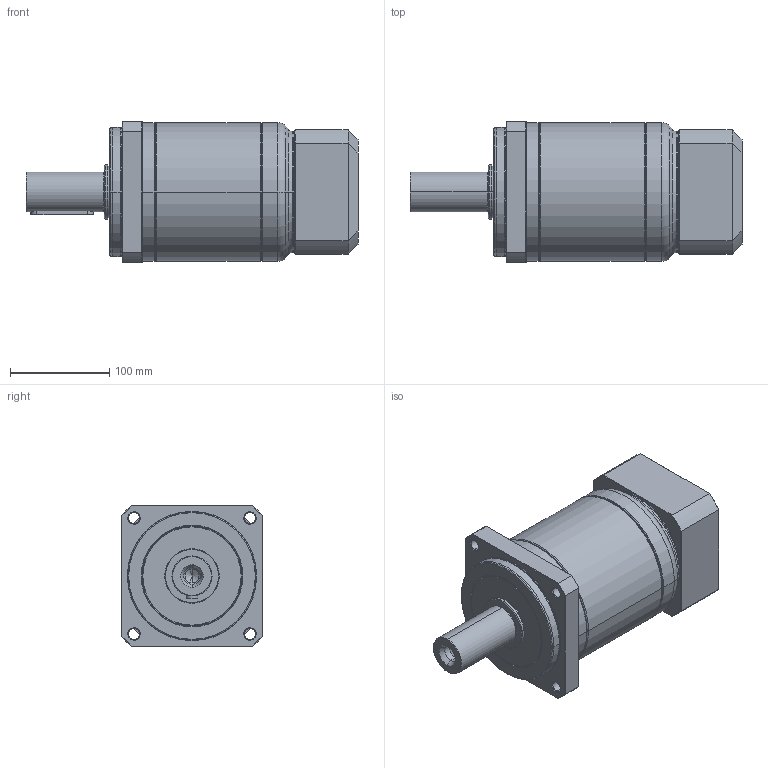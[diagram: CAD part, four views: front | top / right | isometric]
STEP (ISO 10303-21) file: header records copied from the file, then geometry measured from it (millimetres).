
FILE_DESCRIPTION((''),'2;1');
FILE_NAME('PA2-142_2ST_32-P0411700101_ASM','2016-05-11T',('d01943'),(''),'PRO/ENGINEER BY PARAMETRIC TECHNOLOGY CORPORATION, 2008410','PRO/ENGINEER BY PARAMETRIC TECHNOLOGY CORPORATION, 2008410','');
FILE_SCHEMA(('CONFIG_CONTROL_DESIGN'));
Length unit declared in the file: millimetre
Products named in the file (9): P1327510001; P0251500001; P1324500301; P0350500601; P0941503001; P0503700010; P0411700101; P1702600001; PA2-142_2ST_32-P0411700101_ASM
Assembly tree (8 placements, depth 2):
  PA2-142_2ST_32-P0411700101_ASM
    P1327510001
    P0251500001
    P1324500301
    P0350500601
    P0941503001
    P0503700010
    P0411700101
    P1702600001
Bounding box: 334.5 x 142 x 142 mm (x, y, z)
Volume: 2649362.6 mm3; surface area: 383039.6 mm2
Topology: 8 solids, 8 shells, 469 faces, 1027 edges, 592 vertices
Faces by surface type: cone 146, cylinder 133, torus 88, plane 86, bspline 16
Entity records: 17604 total; most frequent: CARTESIAN_POINT 7047, DIRECTION 2388, ORIENTED_EDGE 2014, AXIS2_PLACEMENT_3D 1018, EDGE_CURVE 1007, VERTEX_POINT 592, CIRCLE 548, EDGE_LOOP 531
